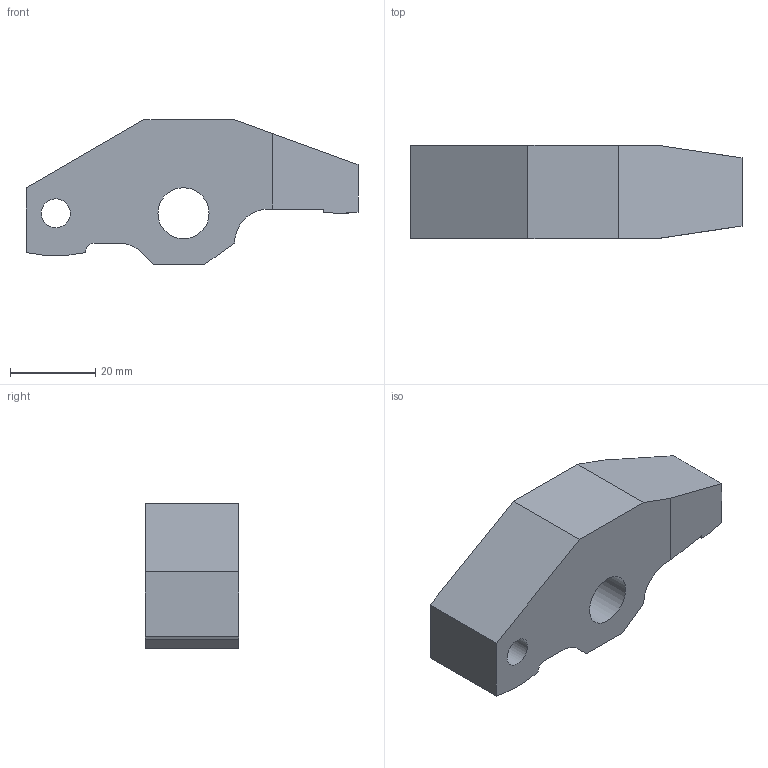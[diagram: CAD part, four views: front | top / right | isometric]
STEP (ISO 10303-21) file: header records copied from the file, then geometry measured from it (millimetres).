
FILE_DESCRIPTION( ( '' ), '1' );
FILE_NAME( 'W:/Catalogue/JLF5H/JLF5H_OPTION/JLF5H52_ClampArm.stp', '2008-05-26T02:50:10', ( '機械事業部産業機器グループ' ), ( '豊和工業株式会社' ), 'XStep 1.0', ' ', ' ' );
FILE_SCHEMA( ( 'CONFIG_CONTROL_DESIGN' ) );
Length unit declared in the file: millimetre
Products named in the file (1): 1
Bounding box: 78 x 22 x 34 mm (x, y, z)
Volume: 35658.3 mm3; surface area: 8798.8 mm2
Topology: 1 solids, 1 shells, 23 faces, 63 edges, 42 vertices
Faces by surface type: plane 16, cylinder 7
Full cylindrical faces by diameter (mm): 6.8 x1, 12 x1
Entity records: 773 total; most frequent: CARTESIAN_POINT 127, DIRECTION 123, ORIENTED_EDGE 122, EDGE_CURVE 61, LINE 47, VECTOR 47, VERTEX_POINT 42, AXIS2_PLACEMENT_3D 38
